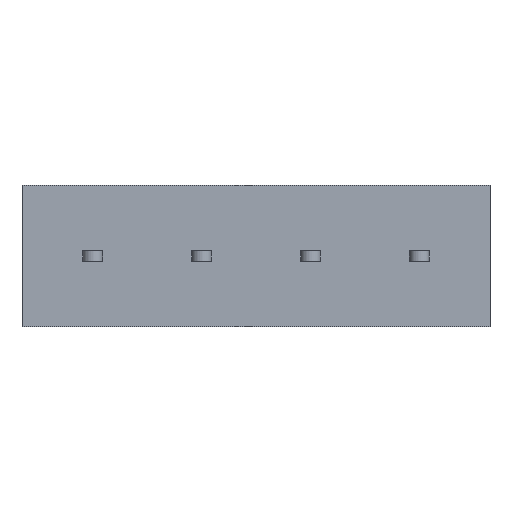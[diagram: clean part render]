
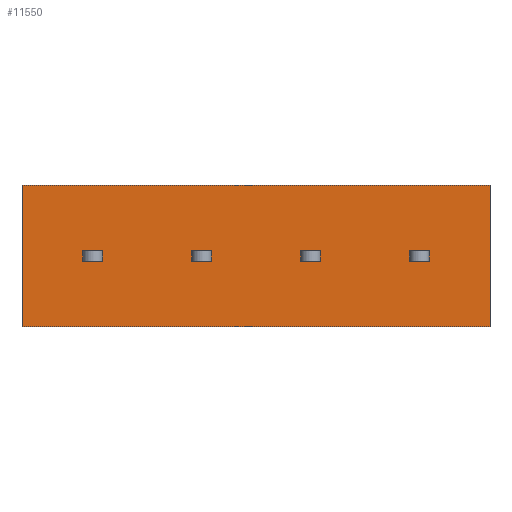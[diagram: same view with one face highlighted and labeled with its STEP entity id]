
A CAD part, front view. The second image highlights one B-rep face of the part: STEP entity #11550.
In plain terms, the highlighted planar face has unit normal (0, -1, 0).
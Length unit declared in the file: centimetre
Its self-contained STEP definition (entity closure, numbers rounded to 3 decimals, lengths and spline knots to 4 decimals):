
#1028=VERTEX_POINT('',#15999);
#1030=VERTEX_POINT('',#16002);
#1069=VERTEX_POINT('',#16103);
#1070=VERTEX_POINT('',#16104);
#1073=VERTEX_POINT('',#16112);
#1134=VERTEX_POINT('',#16332);
#1230=VERTEX_POINT('',#16653);
#1231=VERTEX_POINT('',#16654);
#1234=VERTEX_POINT('',#16662);
#1245=VERTEX_POINT('',#16697);
#1344=VERTEX_POINT('',#17035);
#1345=VERTEX_POINT('',#17036);
#1348=VERTEX_POINT('',#17044);
#1359=VERTEX_POINT('',#17079);
#1458=VERTEX_POINT('',#17417);
#1459=VERTEX_POINT('',#17418);
#1462=VERTEX_POINT('',#17426);
#1473=VERTEX_POINT('',#17461);
#1498=VERTEX_POINT('',#17566);
#1499=VERTEX_POINT('',#17567);
#2244=VECTOR('',#12768,1.);
#2293=VECTOR('',#12831,1.);
#2296=VECTOR('',#12837,1.);
#2342=VECTOR('',#13006,1.);
#2345=VECTOR('',#13014,1.);
#2432=VECTOR('',#13246,1.);
#2436=VECTOR('',#13251,1.);
#2447=VECTOR('',#13284,1.);
#2449=VECTOR('',#13287,1.);
#2550=VECTOR('',#13534,1.);
#2554=VECTOR('',#13539,1.);
#2565=VECTOR('',#13572,1.);
#2567=VECTOR('',#13575,1.);
#2668=VECTOR('',#13822,1.);
#2672=VECTOR('',#13827,1.);
#2683=VECTOR('',#13860,1.);
#2685=VECTOR('',#13863,1.);
#2734=VECTOR('',#13944,1.);
#2742=VECTOR('',#13953,1.);
#2743=VECTOR('',#13954,1.);
#3554=LINE('',#16001,#2244);
#3603=LINE('',#16102,#2293);
#3606=LINE('',#16111,#2296);
#3652=LINE('',#16331,#2342);
#3655=LINE('',#16339,#2345);
#3742=LINE('',#16652,#2432);
#3746=LINE('',#16661,#2436);
#3757=LINE('',#16696,#2447);
#3759=LINE('',#16700,#2449);
#3860=LINE('',#17034,#2550);
#3864=LINE('',#17043,#2554);
#3875=LINE('',#17078,#2565);
#3877=LINE('',#17082,#2567);
#3978=LINE('',#17416,#2668);
#3982=LINE('',#17425,#2672);
#3993=LINE('',#17460,#2683);
#3995=LINE('',#17464,#2685);
#4044=LINE('',#17565,#2734);
#4052=LINE('',#17582,#2742);
#4053=LINE('',#17583,#2743);
#4968=EDGE_CURVE('',#1030,#1028,#3554,.T.);
#5018=EDGE_CURVE('',#1069,#1070,#3603,.T.);
#5022=EDGE_CURVE('',#1070,#1073,#3606,.T.);
#5113=EDGE_CURVE('',#1073,#1134,#3652,.T.);
#5117=EDGE_CURVE('',#1134,#1069,#3655,.T.);
#5252=EDGE_CURVE('',#1230,#1231,#3742,.T.);
#5256=EDGE_CURVE('',#1234,#1230,#3746,.T.);
#5273=EDGE_CURVE('',#1245,#1234,#3757,.T.);
#5275=EDGE_CURVE('',#1231,#1245,#3759,.T.);
#5422=EDGE_CURVE('',#1344,#1345,#3860,.T.);
#5426=EDGE_CURVE('',#1348,#1344,#3864,.T.);
#5443=EDGE_CURVE('',#1359,#1348,#3875,.T.);
#5445=EDGE_CURVE('',#1345,#1359,#3877,.T.);
#5592=EDGE_CURVE('',#1458,#1459,#3978,.T.);
#5596=EDGE_CURVE('',#1462,#1458,#3982,.T.);
#5613=EDGE_CURVE('',#1473,#1462,#3993,.T.);
#5615=EDGE_CURVE('',#1459,#1473,#3995,.T.);
#5666=EDGE_CURVE('',#1498,#1499,#4044,.T.);
#5674=EDGE_CURVE('',#1499,#1030,#4052,.T.);
#5675=EDGE_CURVE('',#1498,#1028,#4053,.T.);
#8534=ORIENTED_EDGE('',*,*,#5113,.F.);
#8535=ORIENTED_EDGE('',*,*,#5022,.F.);
#8536=ORIENTED_EDGE('',*,*,#5018,.F.);
#8537=ORIENTED_EDGE('',*,*,#5117,.F.);
#8538=ORIENTED_EDGE('',*,*,#5256,.T.);
#8539=ORIENTED_EDGE('',*,*,#5252,.T.);
#8540=ORIENTED_EDGE('',*,*,#5275,.T.);
#8541=ORIENTED_EDGE('',*,*,#5273,.T.);
#8542=ORIENTED_EDGE('',*,*,#5426,.T.);
#8543=ORIENTED_EDGE('',*,*,#5422,.T.);
#8544=ORIENTED_EDGE('',*,*,#5445,.T.);
#8545=ORIENTED_EDGE('',*,*,#5443,.T.);
#8546=ORIENTED_EDGE('',*,*,#5596,.T.);
#8547=ORIENTED_EDGE('',*,*,#5592,.T.);
#8548=ORIENTED_EDGE('',*,*,#5615,.T.);
#8549=ORIENTED_EDGE('',*,*,#5613,.T.);
#8550=ORIENTED_EDGE('',*,*,#5674,.T.);
#8551=ORIENTED_EDGE('',*,*,#4968,.T.);
#8552=ORIENTED_EDGE('',*,*,#5675,.F.);
#8553=ORIENTED_EDGE('',*,*,#5666,.T.);
#10162=EDGE_LOOP('',(#8534,#8535,#8536,#8537));
#10163=EDGE_LOOP('',(#8538,#8539,#8540,#8541));
#10164=EDGE_LOOP('',(#8542,#8543,#8544,#8545));
#10165=EDGE_LOOP('',(#8546,#8547,#8548,#8549));
#10166=EDGE_LOOP('',(#8550,#8551,#8552,#8553));
#10882=FACE_BOUND('',#10162,.T.);
#10883=FACE_BOUND('',#10163,.T.);
#10884=FACE_BOUND('',#10164,.T.);
#10885=FACE_BOUND('',#10165,.T.);
#10886=FACE_BOUND('',#10166,.T.);
#11550=ADVANCED_FACE('',(#10882,#10883,#10884,#10885,#10886),#12090,.T.);
#12090=PLANE('',#19708);
#12768=DIRECTION('',(0.,0.,1.));
#12831=DIRECTION('',(-1.,0.,0.));
#12837=DIRECTION('',(0.,0.,-1.));
#13006=DIRECTION('',(1.,0.,0.));
#13014=DIRECTION('',(0.,0.,1.));
#13246=DIRECTION('',(0.,0.,1.));
#13251=DIRECTION('',(-1.,0.,0.));
#13284=DIRECTION('',(0.,0.,-1.));
#13287=DIRECTION('',(1.,0.,0.));
#13534=DIRECTION('',(0.,0.,1.));
#13539=DIRECTION('',(-1.,0.,0.));
#13572=DIRECTION('',(0.,0.,-1.));
#13575=DIRECTION('',(1.,0.,0.));
#13822=DIRECTION('',(0.,0.,1.));
#13827=DIRECTION('',(-1.,0.,0.));
#13860=DIRECTION('',(0.,0.,-1.));
#13863=DIRECTION('',(1.,0.,0.));
#13944=DIRECTION('',(0.,0.,-1.));
#13952=DIRECTION('',(0.,-1.,0.));
#13953=DIRECTION('',(1.,0.,0.));
#13954=DIRECTION('',(1.,0.,0.));
#15999=CARTESIAN_POINT('',(3.23,0.,0.65));
#16001=CARTESIAN_POINT('',(3.23,0.,0.65));
#16002=CARTESIAN_POINT('',(3.23,0.,-0.65));
#16102=CARTESIAN_POINT('',(-0.63,0.,0.05));
#16103=CARTESIAN_POINT('',(-0.33,0.,0.05));
#16104=CARTESIAN_POINT('',(-0.51,0.,0.05));
#16111=CARTESIAN_POINT('',(-0.51,0.,-0.175));
#16112=CARTESIAN_POINT('',(-0.51,0.,-0.05));
#16331=CARTESIAN_POINT('',(-0.63,0.,-0.05));
#16332=CARTESIAN_POINT('',(-0.33,0.,-0.05));
#16339=CARTESIAN_POINT('',(-0.33,0.,-0.175));
#16652=CARTESIAN_POINT('',(2.49,0.,-0.175));
#16653=CARTESIAN_POINT('',(2.49,0.,-0.05));
#16654=CARTESIAN_POINT('',(2.49,0.,0.05));
#16661=CARTESIAN_POINT('',(1.29,0.,-0.05));
#16662=CARTESIAN_POINT('',(2.67,0.,-0.05));
#16696=CARTESIAN_POINT('',(2.67,0.,-0.175));
#16697=CARTESIAN_POINT('',(2.67,0.,0.05));
#16700=CARTESIAN_POINT('',(1.29,0.,0.05));
#17034=CARTESIAN_POINT('',(1.49,0.,-0.175));
#17035=CARTESIAN_POINT('',(1.49,0.,-0.05));
#17036=CARTESIAN_POINT('',(1.49,0.,0.05));
#17043=CARTESIAN_POINT('',(0.79,0.,-0.05));
#17044=CARTESIAN_POINT('',(1.67,0.,-0.05));
#17078=CARTESIAN_POINT('',(1.67,0.,-0.175));
#17079=CARTESIAN_POINT('',(1.67,0.,0.05));
#17082=CARTESIAN_POINT('',(0.79,0.,0.05));
#17416=CARTESIAN_POINT('',(0.49,0.,-0.175));
#17417=CARTESIAN_POINT('',(0.49,0.,-0.05));
#17418=CARTESIAN_POINT('',(0.49,0.,0.05));
#17425=CARTESIAN_POINT('',(0.29,0.,-0.05));
#17426=CARTESIAN_POINT('',(0.67,0.,-0.05));
#17460=CARTESIAN_POINT('',(0.67,0.,-0.175));
#17461=CARTESIAN_POINT('',(0.67,0.,0.05));
#17464=CARTESIAN_POINT('',(0.29,0.,0.05));
#17565=CARTESIAN_POINT('',(-1.07,0.,0.65));
#17566=CARTESIAN_POINT('',(-1.07,0.,0.65));
#17567=CARTESIAN_POINT('',(-1.07,0.,-0.65));
#17581=CARTESIAN_POINT('',(-1.07,0.,0.));
#17582=CARTESIAN_POINT('',(-1.07,0.,-0.65));
#17583=CARTESIAN_POINT('',(-1.07,0.,0.65));
#19708=AXIS2_PLACEMENT_3D('',#17581,#13952,$);
